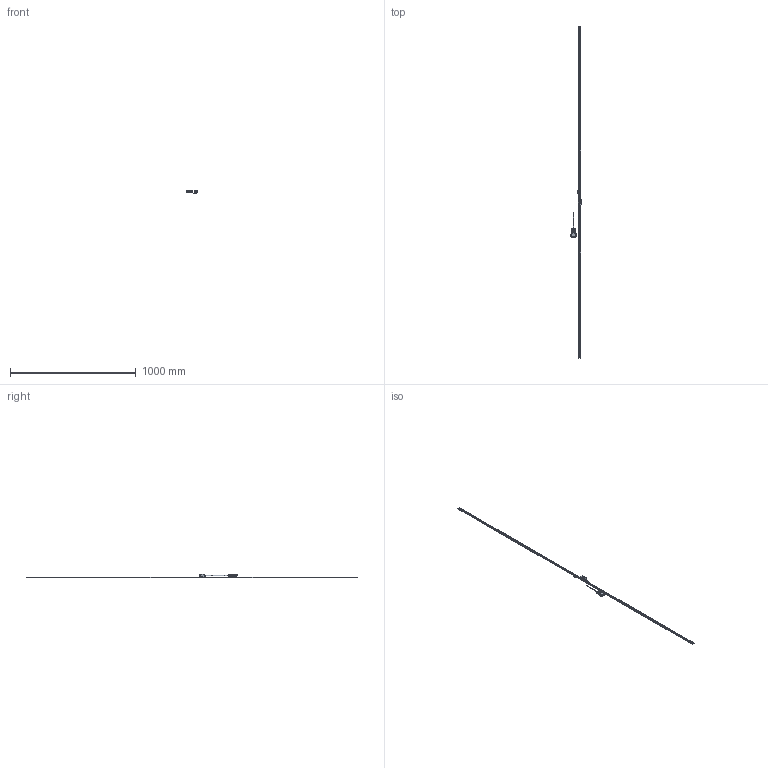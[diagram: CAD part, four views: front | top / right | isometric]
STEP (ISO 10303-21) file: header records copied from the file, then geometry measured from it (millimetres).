
FILE_DESCRIPTION(('Creo Elements/Direct Modeling STEP Export'),'2;1');
FILE_NAME('ST1300-2600F_G.stp','2022-08-16T11:28:31',(''),(''),'Creo Elements/Direct Modeling STEP processor for AP214 (Solid Model)','Creo Elements/Direct Modeling 18.1I 13-Aug-2016 (C) Parametric Technology GmbH','');
FILE_SCHEMA(('AUTOMOTIVE_DESIGN { 1 0 10303 214 1 1 1 1 }'));
Length unit declared in the file: millimetre
Products named in the file (4): Detector_Head; Connector; Scale_2600; ST1300-2600F_G
Assembly tree (3 placements, depth 2):
  ST1300-2600F_G
    Scale_2600
    Connector
    Detector_Head
Bounding box: 83 x 2640 x 30.1 mm (x, y, z)
Volume: 237557.9 mm3; surface area: 139167.4 mm2
Topology: 2 solids, 6 shells, 3907 faces, 10660 edges, 6921 vertices
Faces by surface type: plane 1790, cylinder 1623, extrusion 354, cone 87, torus 26, bspline 23, revolution 4
Entity records: 128832 total; most frequent: CARTESIAN_POINT 30554, ORIENTED_EDGE 21304, DIRECTION 19187, EDGE_CURVE 10648, VERTEX_POINT 6921, VECTOR 6457, AXIS2_PLACEMENT_3D 6362, LINE 6153
